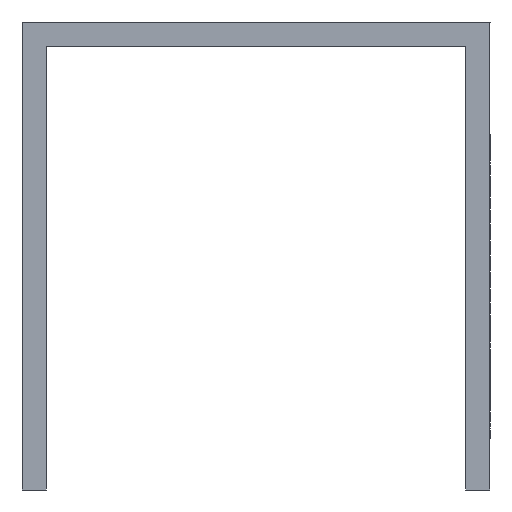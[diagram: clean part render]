
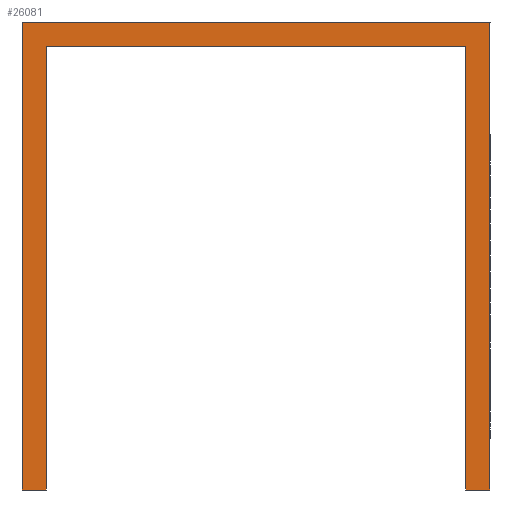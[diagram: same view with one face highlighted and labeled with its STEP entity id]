
A CAD part, front view. The second image highlights one B-rep face of the part: STEP entity #26081.
In plain terms, the highlighted planar face has unit normal (0, -1, 0).
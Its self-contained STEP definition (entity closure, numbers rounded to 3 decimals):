
#2763 = ORIENTED_EDGE ( 'NONE', *, *, #57493, .F. ) ;
#8139 = VECTOR ( 'NONE', #73204, 1000. ) ;
#9267 = VECTOR ( 'NONE', #55717, 1000. ) ;
#9838 = ORIENTED_EDGE ( 'NONE', *, *, #70976, .F. ) ;
#10495 = EDGE_CURVE ( 'NONE', #49005, #48191, #63038, .T. ) ;
#10565 = VERTEX_POINT ( 'NONE', #61887 ) ;
#10989 = ORIENTED_EDGE ( 'NONE', *, *, #47895, .F. ) ;
#11531 = CARTESIAN_POINT ( 'NONE',  ( 21.5, 0., -45.5 ) ) ;
#11982 = CARTESIAN_POINT ( 'NONE',  ( 21.5, 0., 0. ) ) ;
#13977 = ORIENTED_EDGE ( 'NONE', *, *, #46419, .F. ) ;
#14323 = VECTOR ( 'NONE', #65383, 1000. ) ;
#15217 = PLANE ( 'NONE',  #73538 ) ;
#15819 = EDGE_CURVE ( 'NONE', #48191, #10565, #20224, .T. ) ;
#16330 = DIRECTION ( 'NONE',  ( 0., 0., -1. ) ) ;
#16737 = CARTESIAN_POINT ( 'NONE',  ( 24., 0., 2.5 ) ) ;
#18199 = EDGE_CURVE ( 'NONE', #76462, #56737, #24837, .T. ) ;
#20224 = LINE ( 'NONE', #46176, #14323 ) ;
#24669 = LINE ( 'NONE', #11982, #30576 ) ;
#24837 = LINE ( 'NONE', #54806, #8139 ) ;
#25566 = ORIENTED_EDGE ( 'NONE', *, *, #18199, .F. ) ;
#25754 = VECTOR ( 'NONE', #47871, 1000. ) ;
#26081 = ADVANCED_FACE ( 'NONE', ( #29750 ), #15217, .T. ) ;
#26887 = VECTOR ( 'NONE', #79339, 1000. ) ;
#27988 = CARTESIAN_POINT ( 'NONE',  ( -21.5, 0., -45.5 ) ) ;
#28697 = DIRECTION ( 'NONE',  ( 0., -1., 0. ) ) ;
#28918 = LINE ( 'NONE', #11531, #9267 ) ;
#29750 = FACE_OUTER_BOUND ( 'NONE', #63167, .T. ) ;
#29885 = DIRECTION ( 'NONE',  ( 0., 0., 1. ) ) ;
#30409 = CARTESIAN_POINT ( 'NONE',  ( 24., 0., 2.5 ) ) ;
#30576 = VECTOR ( 'NONE', #30902, 1000. ) ;
#30902 = DIRECTION ( 'NONE',  ( 0., 0., 1. ) ) ;
#36657 = VECTOR ( 'NONE', #29885, 1000. ) ;
#37294 = CARTESIAN_POINT ( 'NONE',  ( -24., 0., -45.5 ) ) ;
#41945 = CARTESIAN_POINT ( 'NONE',  ( -24., 0., -45.5 ) ) ;
#42358 = VECTOR ( 'NONE', #71920, 1000. ) ;
#44503 = CARTESIAN_POINT ( 'NONE',  ( -24., 0., 2.5 ) ) ;
#44899 = VERTEX_POINT ( 'NONE', #44503 ) ;
#45046 = ORIENTED_EDGE ( 'NONE', *, *, #15819, .F. ) ;
#46002 = CARTESIAN_POINT ( 'NONE',  ( 24., 0., -45.5 ) ) ;
#46176 = CARTESIAN_POINT ( 'NONE',  ( -21.5, 0., 0. ) ) ;
#46419 = EDGE_CURVE ( 'NONE', #56737, #52254, #28918, .T. ) ;
#47871 = DIRECTION ( 'NONE',  ( -1., 0., 0. ) ) ;
#47895 = EDGE_CURVE ( 'NONE', #52254, #49005, #24669, .T. ) ;
#48191 = VERTEX_POINT ( 'NONE', #58861 ) ;
#48436 = LINE ( 'NONE', #41945, #36657 ) ;
#49005 = VERTEX_POINT ( 'NONE', #68884 ) ;
#52254 = VERTEX_POINT ( 'NONE', #77345 ) ;
#52990 = ORIENTED_EDGE ( 'NONE', *, *, #10495, .F. ) ;
#54806 = CARTESIAN_POINT ( 'NONE',  ( 24., 0., -45.5 ) ) ;
#55717 = DIRECTION ( 'NONE',  ( -1., 0., 0. ) ) ;
#56737 = VERTEX_POINT ( 'NONE', #46002 ) ;
#57493 = EDGE_CURVE ( 'NONE', #72468, #44899, #48436, .T. ) ;
#58861 = CARTESIAN_POINT ( 'NONE',  ( -21.5, 0., 0. ) ) ;
#59954 = CARTESIAN_POINT ( 'NONE',  ( -21.5, 0., 0. ) ) ;
#60559 = EDGE_CURVE ( 'NONE', #10565, #72468, #72877, .T. ) ;
#61887 = CARTESIAN_POINT ( 'NONE',  ( -21.5, 0., -45.5 ) ) ;
#63038 = LINE ( 'NONE', #59954, #25754 ) ;
#63167 = EDGE_LOOP ( 'NONE', ( #10989, #13977, #25566, #9838, #2763, #70463, #45046, #52990 ) ) ;
#65383 = DIRECTION ( 'NONE',  ( 0., 0., -1. ) ) ;
#68884 = CARTESIAN_POINT ( 'NONE',  ( 21.5, 0., 0. ) ) ;
#70463 = ORIENTED_EDGE ( 'NONE', *, *, #60559, .F. ) ;
#70976 = EDGE_CURVE ( 'NONE', #44899, #76462, #80922, .T. ) ;
#71920 = DIRECTION ( 'NONE',  ( -1., 0., 0. ) ) ;
#72468 = VERTEX_POINT ( 'NONE', #37294 ) ;
#72877 = LINE ( 'NONE', #27988, #42358 ) ;
#72883 = CARTESIAN_POINT ( 'NONE',  ( 0., 0., 0. ) ) ;
#73204 = DIRECTION ( 'NONE',  ( 0., 0., -1. ) ) ;
#73538 = AXIS2_PLACEMENT_3D ( 'NONE', #72883, #28697, #16330 ) ;
#76462 = VERTEX_POINT ( 'NONE', #30409 ) ;
#77345 = CARTESIAN_POINT ( 'NONE',  ( 21.5, 0., -45.5 ) ) ;
#79339 = DIRECTION ( 'NONE',  ( 1., 0., 0. ) ) ;
#80922 = LINE ( 'NONE', #16737, #26887 ) ;
